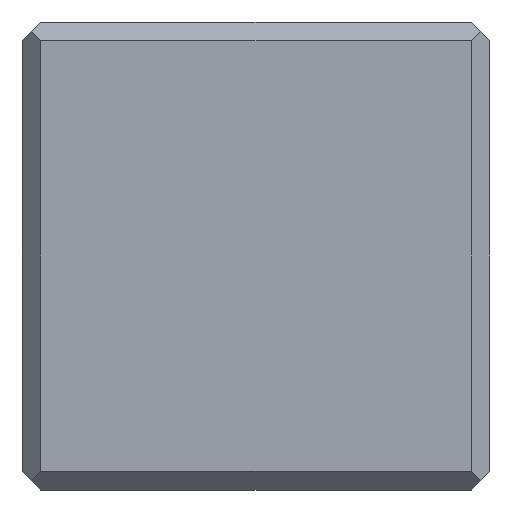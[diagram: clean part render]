
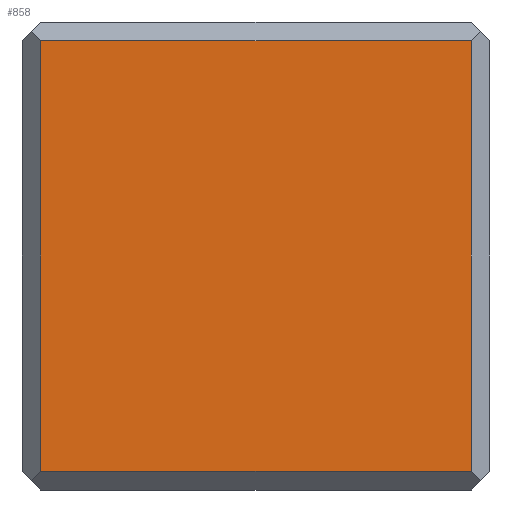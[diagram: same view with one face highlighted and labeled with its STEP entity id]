
A CAD part, front view. The second image highlights one B-rep face of the part: STEP entity #858.
In plain terms, the highlighted planar face has unit normal (0, -1, 0).
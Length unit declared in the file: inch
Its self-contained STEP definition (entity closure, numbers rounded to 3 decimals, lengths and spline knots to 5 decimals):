
#158=DIRECTION('',(-1.,0.,0.));
#159=VECTOR('',#158,0.23);
#160=CARTESIAN_POINT('',(0.115,-0.372,-0.24));
#161=LINE('',#160,#159);
#162=DIRECTION('',(0.,0.,-1.));
#163=VECTOR('',#162,0.23);
#164=CARTESIAN_POINT('',(-0.115,-0.372,-0.01));
#165=LINE('',#164,#163);
#166=DIRECTION('',(1.,0.,0.));
#167=VECTOR('',#166,0.23);
#168=CARTESIAN_POINT('',(-0.115,-0.372,-0.01));
#169=LINE('',#168,#167);
#170=DIRECTION('',(0.,0.,-1.));
#171=VECTOR('',#170,0.23);
#172=CARTESIAN_POINT('',(0.115,-0.372,-0.01));
#173=LINE('',#172,#171);
#666=CARTESIAN_POINT('',(0.115,-0.372,-0.24));
#667=CARTESIAN_POINT('',(-0.115,-0.372,-0.24));
#668=VERTEX_POINT('',#666);
#669=VERTEX_POINT('',#667);
#672=CARTESIAN_POINT('',(-0.115,-0.372,-0.01));
#673=VERTEX_POINT('',#672);
#684=CARTESIAN_POINT('',(0.115,-0.372,-0.01));
#685=VERTEX_POINT('',#684);
#844=CARTESIAN_POINT('',(-0.125,-0.372,0.));
#845=DIRECTION('',(0.,-1.,0.));
#846=DIRECTION('',(1.,0.,0.));
#847=AXIS2_PLACEMENT_3D('',#844,#845,#846);
#848=PLANE('',#847);
#849=ORIENTED_EDGE('',*,*,#831,.T.);
#851=ORIENTED_EDGE('',*,*,#850,.F.);
#853=ORIENTED_EDGE('',*,*,#852,.T.);
#855=ORIENTED_EDGE('',*,*,#854,.T.);
#856=EDGE_LOOP('',(#849,#851,#853,#855));
#857=FACE_OUTER_BOUND('',#856,.F.);
#858=ADVANCED_FACE('',(#857),#848,.T.);
#831=EDGE_CURVE('',#668,#669,#161,.T.);
#850=EDGE_CURVE('',#673,#669,#165,.T.);
#852=EDGE_CURVE('',#673,#685,#169,.T.);
#854=EDGE_CURVE('',#685,#668,#173,.T.);
